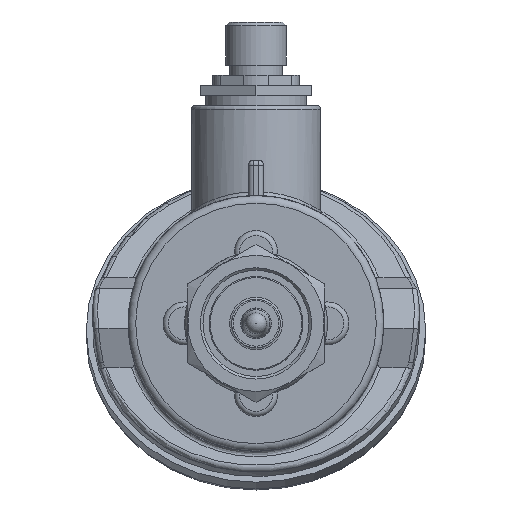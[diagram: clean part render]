
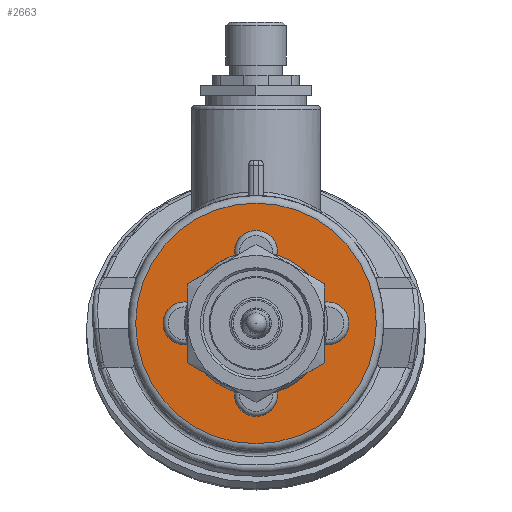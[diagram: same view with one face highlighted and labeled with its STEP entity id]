
A CAD part, left-side view. The second image highlights one B-rep face of the part: STEP entity #2663.
In plain terms, the highlighted planar face has unit normal (-1, 0, 0).
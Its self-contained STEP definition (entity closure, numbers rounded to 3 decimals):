
#674=ORIENTED_EDGE('',*,*,#1241,.T.);
#675=ORIENTED_EDGE('',*,*,#1263,.T.);
#676=ORIENTED_EDGE('',*,*,#1247,.T.);
#677=ORIENTED_EDGE('',*,*,#1264,.T.);
#678=ORIENTED_EDGE('',*,*,#1265,.T.);
#679=ORIENTED_EDGE('',*,*,#1266,.T.);
#680=ORIENTED_EDGE('',*,*,#1254,.T.);
#681=ORIENTED_EDGE('',*,*,#1267,.T.);
#682=ORIENTED_EDGE('',*,*,#1261,.T.);
#1241=EDGE_CURVE('',#1545,#1545,#1764,.T.);
#1247=EDGE_CURVE('',#1551,#1550,#1767,.T.);
#1254=EDGE_CURVE('',#1557,#1556,#1770,.T.);
#1261=EDGE_CURVE('',#1563,#1562,#1773,.T.);
#1263=EDGE_CURVE('',#1562,#1551,#1774,.T.);
#1264=EDGE_CURVE('',#1550,#1564,#1775,.T.);
#1265=EDGE_CURVE('',#1564,#1565,#1776,.T.);
#1266=EDGE_CURVE('',#1565,#1557,#1777,.T.);
#1267=EDGE_CURVE('',#1556,#1563,#1778,.T.);
#1545=VERTEX_POINT('',#6639);
#1550=VERTEX_POINT('',#6659);
#1551=VERTEX_POINT('',#6661);
#1556=VERTEX_POINT('',#6682);
#1557=VERTEX_POINT('',#6684);
#1562=VERTEX_POINT('',#6705);
#1563=VERTEX_POINT('',#6707);
#1564=VERTEX_POINT('',#6712);
#1565=VERTEX_POINT('',#6714);
#1764=CIRCLE('',#3730,23.75);
#1767=CIRCLE('',#3735,4.25);
#1770=CIRCLE('',#3740,4.25);
#1773=CIRCLE('',#3745,4.25);
#1774=CIRCLE('',#3747,14.1);
#1775=CIRCLE('',#3748,14.1);
#1776=CIRCLE('',#3749,4.25);
#1777=CIRCLE('',#3750,14.1);
#1778=CIRCLE('',#3751,14.1);
#1968=EDGE_LOOP('',(#674));
#1969=EDGE_LOOP('',(#675,#676,#677,#678,#679,#680,#681,#682));
#2279=FACE_BOUND('',#1968,.T.);
#2280=FACE_BOUND('',#1969,.T.);
#2531=PLANE('',#3746);
#2663=ADVANCED_FACE('',(#2279,#2280),#2531,.F.);
#3730=AXIS2_PLACEMENT_3D('',#6638,#4209,#4210);
#3735=AXIS2_PLACEMENT_3D('',#6660,#4220,#4221);
#3740=AXIS2_PLACEMENT_3D('',#6683,#4232,#4233);
#3745=AXIS2_PLACEMENT_3D('',#6706,#4244,#4245);
#3746=AXIS2_PLACEMENT_3D('',#6709,#4247,#4248);
#3747=AXIS2_PLACEMENT_3D('',#6710,#4249,#4250);
#3748=AXIS2_PLACEMENT_3D('',#6711,#4251,#4252);
#3749=AXIS2_PLACEMENT_3D('',#6713,#4253,#4254);
#3750=AXIS2_PLACEMENT_3D('',#6715,#4255,#4256);
#3751=AXIS2_PLACEMENT_3D('',#6716,#4257,#4258);
#4209=DIRECTION('',(-1.,0.,0.));
#4210=DIRECTION('',(0.,-1.,0.));
#4220=DIRECTION('',(1.,0.,0.));
#4221=DIRECTION('',(0.,0.989,-0.151));
#4232=DIRECTION('',(1.,0.,0.));
#4233=DIRECTION('',(0.,-0.989,0.151));
#4244=DIRECTION('',(1.,0.,0.));
#4245=DIRECTION('',(0.,-0.151,-0.989));
#4247=DIRECTION('',(1.,0.,0.));
#4248=DIRECTION('',(0.,-1.,0.));
#4249=DIRECTION('',(1.,0.,0.));
#4250=DIRECTION('',(0.,0.955,0.298));
#4251=DIRECTION('',(1.,0.,0.));
#4252=DIRECTION('',(0.,-0.298,0.955));
#4253=DIRECTION('',(1.,0.,0.));
#4254=DIRECTION('',(0.,0.151,0.989));
#4255=DIRECTION('',(1.,0.,0.));
#4256=DIRECTION('',(0.,-0.955,-0.298));
#4257=DIRECTION('',(1.,0.,0.));
#4258=DIRECTION('',(0.,0.298,-0.955));
#6638=CARTESIAN_POINT('',(70.,0.,0.));
#6639=CARTESIAN_POINT('',(70.,-23.75,0.));
#6659=CARTESIAN_POINT('',(70.,-4.201,13.459));
#6660=CARTESIAN_POINT('',(70.,0.,14.1));
#6661=CARTESIAN_POINT('',(70.,4.201,13.459));
#6682=CARTESIAN_POINT('',(70.,4.201,-13.459));
#6683=CARTESIAN_POINT('',(70.,0.,-14.1));
#6684=CARTESIAN_POINT('',(70.,-4.201,-13.459));
#6705=CARTESIAN_POINT('',(70.,13.459,4.201));
#6706=CARTESIAN_POINT('',(70.,14.1,0.));
#6707=CARTESIAN_POINT('',(70.,13.459,-4.201));
#6709=CARTESIAN_POINT('',(70.,0.,0.));
#6710=CARTESIAN_POINT('',(70.,0.,0.));
#6711=CARTESIAN_POINT('',(70.,0.,0.));
#6712=CARTESIAN_POINT('',(70.,-13.459,4.201));
#6713=CARTESIAN_POINT('',(70.,-14.1,0.));
#6714=CARTESIAN_POINT('',(70.,-13.459,-4.201));
#6715=CARTESIAN_POINT('',(70.,0.,0.));
#6716=CARTESIAN_POINT('',(70.,0.,0.));
